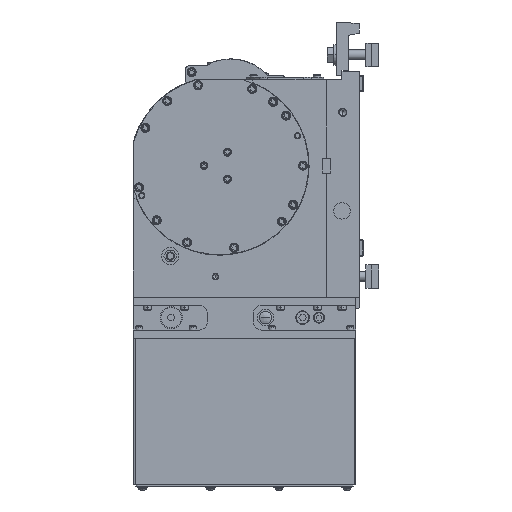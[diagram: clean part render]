
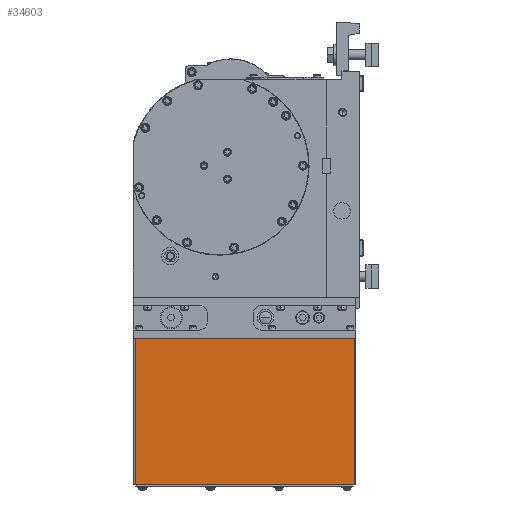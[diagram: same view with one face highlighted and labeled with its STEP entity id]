
A CAD part, left-side view. The second image highlights one B-rep face of the part: STEP entity #34603.
In plain terms, the highlighted planar face has unit normal (-1, 0, 0).
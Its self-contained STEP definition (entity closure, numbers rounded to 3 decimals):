
#19146 = CARTESIAN_POINT ( 'NONE',  ( 0., 0., -178. ) ) ;
#28584 = CARTESIAN_POINT ( 'NONE',  ( 0., 269., -178. ) ) ;
#29176 = DIRECTION ( 'NONE',  ( -1., 0., 0. ) ) ;
#33798 = DIRECTION ( 'NONE',  ( 0., 0., 1. ) ) ;
#34603 = ADVANCED_FACE ( 'NONE', ( #146736 ), #106665, .T. ) ;
#47321 = ORIENTED_EDGE ( 'NONE', *, *, #161935, .T. ) ;
#51221 = DIRECTION ( 'NONE',  ( 0., -1., 0. ) ) ;
#55720 = CARTESIAN_POINT ( 'NONE',  ( 0., 2., 0. ) ) ;
#69020 = VECTOR ( 'NONE', #109640, 1000. ) ;
#69632 = CARTESIAN_POINT ( 'NONE',  ( 0., 269., 0. ) ) ;
#71879 = VECTOR ( 'NONE', #111955, 1000. ) ;
#76446 = LINE ( 'NONE', #90350, #114888 ) ;
#80673 = CARTESIAN_POINT ( 'NONE',  ( 0., 0., -12. ) ) ;
#82249 = VERTEX_POINT ( 'NONE', #69632 ) ;
#90350 = CARTESIAN_POINT ( 'NONE',  ( 0., 0., 0. ) ) ;
#91132 = EDGE_CURVE ( 'NONE', #96668, #141626, #111483, .T. ) ;
#96093 = AXIS2_PLACEMENT_3D ( 'NONE', #80673, #29176, #119713 ) ;
#96668 = VERTEX_POINT ( 'NONE', #113238 ) ;
#102508 = ORIENTED_EDGE ( 'NONE', *, *, #160919, .F. ) ;
#106665 = PLANE ( 'NONE',  #96093 ) ;
#108755 = VERTEX_POINT ( 'NONE', #55720 ) ;
#109640 = DIRECTION ( 'NONE',  ( 0., 1., 0. ) ) ;
#110300 = LINE ( 'NONE', #125028, #71879 ) ;
#111483 = LINE ( 'NONE', #19146, #69020 ) ;
#111821 = CARTESIAN_POINT ( 'NONE',  ( 0., 2., -12. ) ) ;
#111955 = DIRECTION ( 'NONE',  ( 0., 0., -1. ) ) ;
#113238 = CARTESIAN_POINT ( 'NONE',  ( 0., 2., -178. ) ) ;
#114888 = VECTOR ( 'NONE', #51221, 1000. ) ;
#119713 = DIRECTION ( 'NONE',  ( 0., -1., 0. ) ) ;
#125028 = CARTESIAN_POINT ( 'NONE',  ( 0., 269., -12. ) ) ;
#132260 = EDGE_LOOP ( 'NONE', ( #162883, #136273, #102508, #47321 ) ) ;
#136273 = ORIENTED_EDGE ( 'NONE', *, *, #151237, .T. ) ;
#138847 = VECTOR ( 'NONE', #33798, 1000. ) ;
#141626 = VERTEX_POINT ( 'NONE', #28584 ) ;
#142872 = LINE ( 'NONE', #111821, #138847 ) ;
#146736 = FACE_OUTER_BOUND ( 'NONE', #132260, .T. ) ;
#151237 = EDGE_CURVE ( 'NONE', #96668, #108755, #142872, .T. ) ;
#160919 = EDGE_CURVE ( 'NONE', #82249, #108755, #76446, .T. ) ;
#161935 = EDGE_CURVE ( 'NONE', #82249, #141626, #110300, .T. ) ;
#162883 = ORIENTED_EDGE ( 'NONE', *, *, #91132, .F. ) ;
